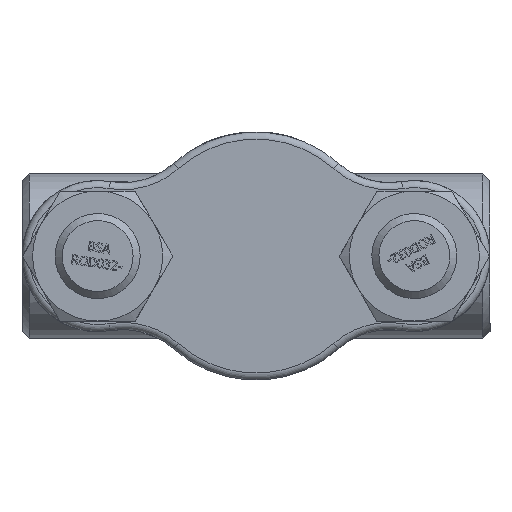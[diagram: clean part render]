
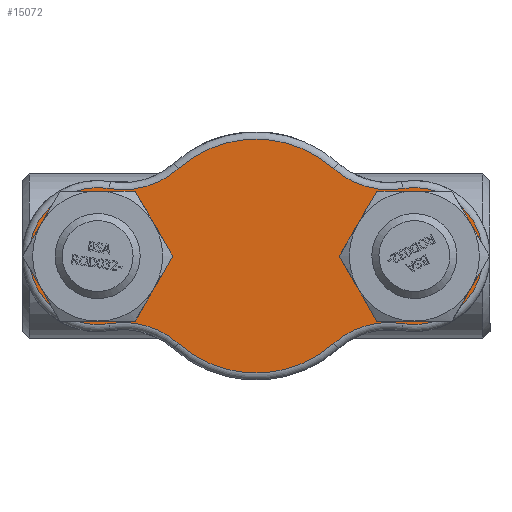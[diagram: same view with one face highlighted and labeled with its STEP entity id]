
A CAD part, front view. The second image highlights one B-rep face of the part: STEP entity #15072.
In plain terms, the highlighted planar face has unit normal (0, -1, 0) as drawn and (0, 0, -1) by its records, which use the part's own axes.
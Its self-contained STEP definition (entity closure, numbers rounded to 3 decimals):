
#3960=PLANE('',#16041);
#4353=FACE_BOUND('',#5324,.T.);
#4354=FACE_BOUND('',#5325,.T.);
#4443=FACE_OUTER_BOUND('',#5323,.T.);
#5323=EDGE_LOOP('',(#10371,#10372,#10373,#10374,#10375,#10376,#10377,#10378));
#5324=EDGE_LOOP('',(#10379));
#5325=EDGE_LOOP('',(#10380));
#6291=CIRCLE('',#16040,22.);
#6292=CIRCLE('',#16042,29.);
#6293=CIRCLE('',#16043,35.);
#6294=CIRCLE('',#16044,49.5);
#6295=CIRCLE('',#16045,35.);
#6296=CIRCLE('',#16046,29.);
#6297=CIRCLE('',#16047,35.);
#6298=CIRCLE('',#16048,49.5);
#6299=CIRCLE('',#16049,35.);
#6300=CIRCLE('',#16050,22.);
#6479=VERTEX_POINT('',#19458);
#6480=VERTEX_POINT('',#19461);
#6481=VERTEX_POINT('',#19462);
#6482=VERTEX_POINT('',#19464);
#6483=VERTEX_POINT('',#19466);
#6484=VERTEX_POINT('',#19468);
#6485=VERTEX_POINT('',#19470);
#6486=VERTEX_POINT('',#19472);
#6487=VERTEX_POINT('',#19474);
#6488=VERTEX_POINT('',#19477);
#8029=EDGE_CURVE('',#6479,#6479,#6291,.T.);
#8030=EDGE_CURVE('',#6480,#6481,#6292,.T.);
#8031=EDGE_CURVE('',#6482,#6480,#6293,.T.);
#8032=EDGE_CURVE('',#6483,#6482,#6294,.T.);
#8033=EDGE_CURVE('',#6484,#6483,#6295,.T.);
#8034=EDGE_CURVE('',#6485,#6484,#6296,.T.);
#8035=EDGE_CURVE('',#6486,#6485,#6297,.T.);
#8036=EDGE_CURVE('',#6487,#6486,#6298,.T.);
#8037=EDGE_CURVE('',#6481,#6487,#6299,.T.);
#8038=EDGE_CURVE('',#6488,#6488,#6300,.T.);
#10371=ORIENTED_EDGE('',*,*,#8030,.F.);
#10372=ORIENTED_EDGE('',*,*,#8031,.F.);
#10373=ORIENTED_EDGE('',*,*,#8032,.F.);
#10374=ORIENTED_EDGE('',*,*,#8033,.F.);
#10375=ORIENTED_EDGE('',*,*,#8034,.F.);
#10376=ORIENTED_EDGE('',*,*,#8035,.F.);
#10377=ORIENTED_EDGE('',*,*,#8036,.F.);
#10378=ORIENTED_EDGE('',*,*,#8037,.F.);
#10379=ORIENTED_EDGE('',*,*,#8038,.F.);
#10380=ORIENTED_EDGE('',*,*,#8029,.F.);
#15072=ADVANCED_FACE('',(#4443,#4353,#4354),#3960,.F.);
#16040=AXIS2_PLACEMENT_3D('',#19459,#16756,#16757);
#16041=AXIS2_PLACEMENT_3D('',#19460,#16758,#16759);
#16042=AXIS2_PLACEMENT_3D('',#19463,#16760,#16761);
#16043=AXIS2_PLACEMENT_3D('',#19465,#16762,#16763);
#16044=AXIS2_PLACEMENT_3D('',#19467,#16764,#16765);
#16045=AXIS2_PLACEMENT_3D('',#19469,#16766,#16767);
#16046=AXIS2_PLACEMENT_3D('',#19471,#16768,#16769);
#16047=AXIS2_PLACEMENT_3D('',#19473,#16770,#16771);
#16048=AXIS2_PLACEMENT_3D('',#19475,#16772,#16773);
#16049=AXIS2_PLACEMENT_3D('',#19476,#16774,#16775);
#16050=AXIS2_PLACEMENT_3D('',#19478,#16776,#16777);
#16756=DIRECTION('center_axis',(0.,0.,-1.));
#16757=DIRECTION('ref_axis',(1.,0.,0.));
#16758=DIRECTION('center_axis',(0.,0.,1.));
#16759=DIRECTION('ref_axis',(1.,0.,0.));
#16760=DIRECTION('center_axis',(0.,0.,1.));
#16761=DIRECTION('ref_axis',(-1.,0.,0.));
#16762=DIRECTION('center_axis',(0.,0.,-1.));
#16763=DIRECTION('ref_axis',(0.276,-0.961,0.));
#16764=DIRECTION('center_axis',(0.,0.,1.));
#16765=DIRECTION('ref_axis',(0.,1.,0.));
#16766=DIRECTION('center_axis',(0.,0.,-1.));
#16767=DIRECTION('ref_axis',(-0.276,-0.961,0.));
#16768=DIRECTION('center_axis',(0.,0.,1.));
#16769=DIRECTION('ref_axis',(1.,0.,0.));
#16770=DIRECTION('center_axis',(0.,0.,-1.));
#16771=DIRECTION('ref_axis',(-0.276,0.961,0.));
#16772=DIRECTION('center_axis',(0.,0.,1.));
#16773=DIRECTION('ref_axis',(0.,-1.,0.));
#16774=DIRECTION('center_axis',(0.,0.,-1.));
#16775=DIRECTION('ref_axis',(0.276,0.961,0.));
#16776=DIRECTION('center_axis',(0.,0.,-1.));
#16777=DIRECTION('ref_axis',(1.,0.,0.));
#19458=CARTESIAN_POINT('',(45.,0.,0.));
#19459=CARTESIAN_POINT('Origin',(67.,0.,0.));
#19460=CARTESIAN_POINT('Origin',(0.,0.,0.));
#19461=CARTESIAN_POINT('',(-62.115,28.586,0.));
#19462=CARTESIAN_POINT('',(-62.115,-28.586,0.));
#19463=CARTESIAN_POINT('Origin',(-67.,0.,0.));
#19464=CARTESIAN_POINT('',(-32.933,36.955,0.));
#19465=CARTESIAN_POINT('Origin',(-56.218,63.085,0.));
#19466=CARTESIAN_POINT('',(32.933,36.955,0.));
#19467=CARTESIAN_POINT('Origin',(0.,0.,0.));
#19468=CARTESIAN_POINT('',(62.115,28.586,0.));
#19469=CARTESIAN_POINT('Origin',(56.218,63.085,0.));
#19470=CARTESIAN_POINT('',(62.115,-28.586,0.));
#19471=CARTESIAN_POINT('Origin',(67.,0.,0.));
#19472=CARTESIAN_POINT('',(32.933,-36.955,0.));
#19473=CARTESIAN_POINT('Origin',(56.218,-63.085,0.));
#19474=CARTESIAN_POINT('',(-32.933,-36.955,0.));
#19475=CARTESIAN_POINT('Origin',(0.,0.,0.));
#19476=CARTESIAN_POINT('Origin',(-56.218,-63.085,0.));
#19477=CARTESIAN_POINT('',(-89.,0.,0.));
#19478=CARTESIAN_POINT('Origin',(-67.,0.,0.));
